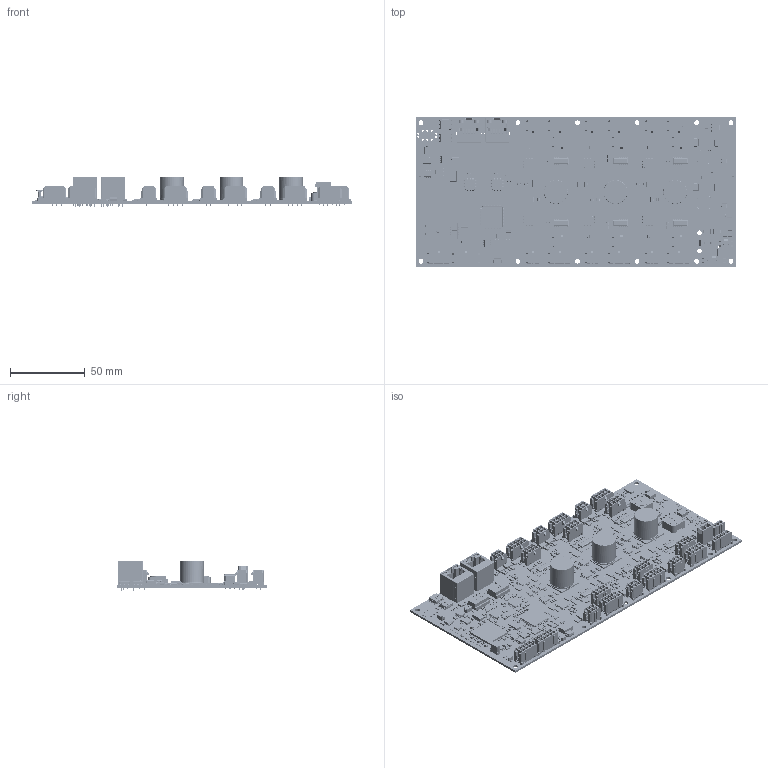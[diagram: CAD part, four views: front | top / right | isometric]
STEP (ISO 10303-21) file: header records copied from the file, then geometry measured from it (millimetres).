
FILE_DESCRIPTION(/* description */ (''),/* implementation_level */ '2;1');
FILE_NAME(/* name */ 'C:/Users/buesch/Desktop/Büsch/Module/TMCM-6213_v11.step',/* time_stamp */ '2019-05-15T12:37:57+02:00',/* author */ (''),/* organization */ (''),/* preprocessor_version */ 'ST-DEVELOPER v18',/* originating_system */ 'Autodesk Translation Framework v8.2.0.1029',/* authorisation */ '');
FILE_SCHEMA (('AUTOMOTIVE_DESIGN { 1 0 10303 214 3 1 1 }'));
Length unit declared in the file: millimetre
Products named in the file (719): (Nicht gespeichert); Outline; User_Library-CaseD_7343-31; User_Library-CaseD_7343-032; User_Library-CaseD_7343-033; c_el_J16_D160_L165; c_el_J16_D160_L166; c_el_J16_D160_L167; User_Library-CAPC5750X26; User_Library-CAPC5750X027; Chamfer; Array; Array001; #1091401; Chamfer001; Array002; Array003; #1091405; Chamfer002; Array004; Array005; #1091409; Chamfer003; Array006; Array007; #1091413; User_Library-DO214AA; User_Library-SOT23-6; User_Library-SOT23-007; Chamfer004; Cut; Chamfer005; Cut001; Chamfer006; Cut002; Cut003; Chamfer007; Chamfer008; Cut004; Chamfer009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
Assembly tree (1285 placements, depth 2):
  (Nicht gespeichert)
    Outline
    User_Library-CaseD_7343-31
    User_Library-CaseD_7343-032
    User_Library-CaseD_7343-033
    c_el_J16_D160_L165
    c_el_J16_D160_L166
    c_el_J16_D160_L167
    User_Library-CAPC5750X26
    User_Library-CAPC5750X027
    Chamfer
    Array
    Array001
    #1091401
    Chamfer001
    Array002
    Array003
    #1091405
    Chamfer002
    Array004
    Array005
    #1091409
    Chamfer003
    Array006
    Array007
    #1091413
    User_Library-DO214AA
    User_Library-SOT23-6
    User_Library-SOT23-007
    Chamfer004
    Cut
    Chamfer005
    Cut001
    Chamfer006
    Cut002
    Cut003
    Chamfer007
    Chamfer008
    Cut004
    Chamfer009
    Array008
    Array009
    #1091430
    Chamfer010
    Array010
    Array011
    #1091434
    User_Library-SOT23-008
    Chamfer011
    Array012
    Array013
    #1091439
    Chamfer012
    Array014
    Array015
    #1091443
    COMPOUND
    COMPOUND001
    COMPOUND002
    COMPOUND003
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Bounding box: 215 x 100 x 20.65 mm (x, y, z)
Volume: 68646.5 mm3; surface area: 108517.9 mm2
Topology: 1243 solids, 1243 shells, 38361 faces, 98208 edges, 61884 vertices
Faces by surface type: plane 26534, cylinder 8450, bspline 1156, torus 1151, sphere 1022, cone 48
Full cylindrical faces by diameter (mm): 0.08 x32, 0.3 x3, 0.4 x4, 0.402 x2, 0.404 x2, 0.432 x8, 0.469 x7, 0.5 x15, 0.7 x2, 0.86 x40, 0.98 x2, 1 x29, 1.02 x4, 1.1 x168, 1.2 x6, 1.27 x4, 1.3 x4, 1.5 x2, 1.7 x4, 1.8 x2, 3 x2, 3.2 x12, 3.25 x4, 3.35 x2, 3.42 x2, 3.5 x2, 4 x2, 9.5 x2, 10 x2, 16 x6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
Entity records: 1091931 total; most frequent: CARTESIAN_POINT 290228, ORIENTED_EDGE 161902, DIRECTION 154350, EDGE_CURVE 80951, LINE 64744, VECTOR 64744, VERTEX_POINT 52249, AXIS2_PLACEMENT_3D 44803
